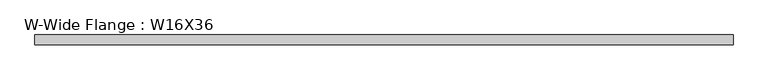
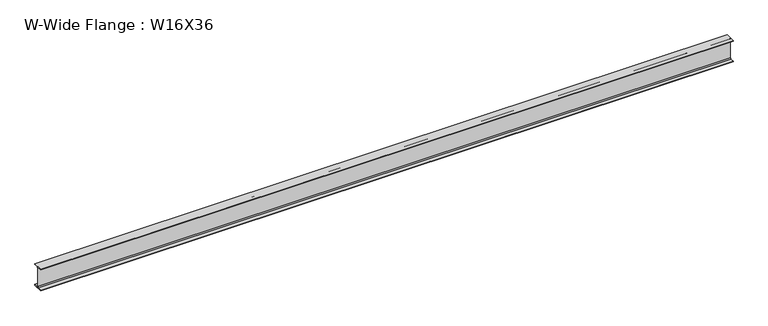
"""IFC4 building model written with IfcOpenShell, lengths in millimetres: beam geometry, W-Wide Flange : W16X36."""

from ifc_helpers import new_model, si_unit, point, frame, frame_2d, origin, place, context, project, spatial, polyline, circle_curve, trimmed, segment, composite_curve, outline, extrude, source, transform, mapped, element, save


def w_wide_flange_w16x36_55c65670(model_context):
    return source(origin(), model_context, "Body", "SweptSolid", [
        extrude(outline(composite_curve([segment(polyline([(88.773, -191.008), (88.773, -201.93), (-88.773, -201.93), (-88.773, -191.008), (-21.3995, -191.008)]), True, "CONTINUOUS"), segment(trimmed(circle_curve(frame_2d((-21.3995, -173.355)), 17.653), [point((-21.3995, -191.008))], [point((-3.7465, -173.355))], True, "CARTESIAN"), True, "CONTINUOUS"), segment(polyline([(-3.7465, -173.355), (-3.7465, 173.355)]), True, "CONTINUOUS"), segment(trimmed(circle_curve(frame_2d((-21.3995, 173.355)), 17.653), [point((-3.7465, 173.355))], [point((-21.3995, 191.008))], True, "CARTESIAN"), True, "CONTINUOUS"), segment(polyline([(-21.3995, 191.008), (-88.773, 191.008), (-88.773, 201.93), (88.773, 201.93), (88.773, 191.008), (21.3995, 191.008)]), True, "CONTINUOUS"), segment(trimmed(circle_curve(frame_2d((21.3995, 173.355)), 17.653), [point((21.3995, 191.008))], [point((3.7465, 173.355))], True, "CARTESIAN"), True, "CONTINUOUS"), segment(polyline([(3.7465, 173.355), (3.7465, -173.355)]), True, "CONTINUOUS"), segment(trimmed(circle_curve(frame_2d((21.3995, -173.355)), 17.653), [point((3.7465, -173.355))], [point((21.3995, -191.008))], True, "CARTESIAN"), True, "CONTINUOUS"), segment(polyline([(21.3995, -191.008), (88.773, -191.008)]), True, "CONTINUOUS")], self_intersect=False)), frame((-6649.290112, 0.0, 0.0), z_axis=(1.0, 0.0, 0.0), x_axis=(0.0, 1.0, 0.0)), (0.0, 0.0, 1.0), 12417.0483629),
    ])


if __name__ == "__main__":
    model = new_model("IFC4")
    model_context = context("Model", 3, world=origin())
    ifc_project = project(units=[si_unit("LENGTHUNIT", "METRE", prefix="MILLI")], contexts=[model_context])
    site = spatial("IfcSite", under=ifc_project)
    building = spatial("IfcBuilding", under=site)
    placement = place(None, origin())
    w_wide_flange_w16x36_shape = w_wide_flange_w16x36_55c65670(model_context)
    element("IfcBeam", 1, ObjectType="W-Wide Flange : W16X36", at=placement, inside=building, context=model_context, shape_type="MappedRepresentation", body=[
        mapped(w_wide_flange_w16x36_shape, transform((0.0, 0.0, 0.0), x_axis=(1.0, 0.0, 0.0), y_axis=(0.0, 1.0, 0.0), z_axis=(0.0, 0.0, 1.0))),
    ])
    save(model, "model.ifc")
